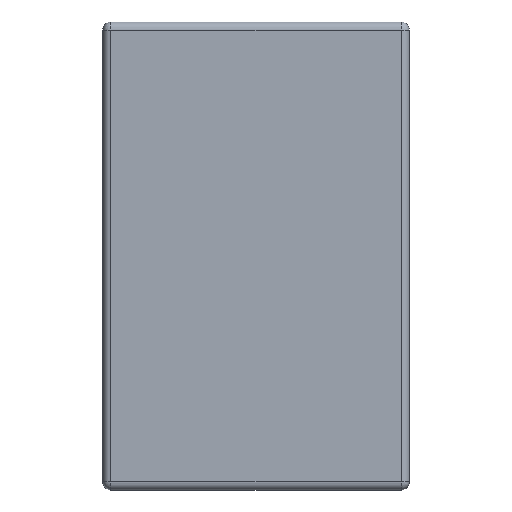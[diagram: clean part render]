
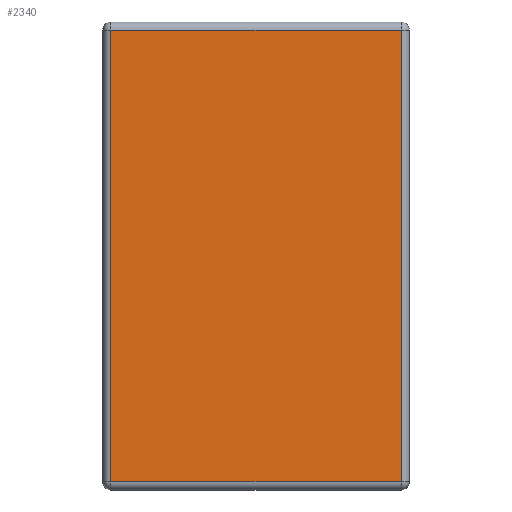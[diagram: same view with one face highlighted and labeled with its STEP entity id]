
A CAD part, front view. The second image highlights one B-rep face of the part: STEP entity #2340.
In plain terms, the highlighted planar face has unit normal (0, -1, 0).
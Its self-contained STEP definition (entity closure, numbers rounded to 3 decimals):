
#176=LINE('',#4308,#369);
#178=LINE('',#4318,#371);
#182=LINE('',#4334,#375);
#184=LINE('',#4337,#377);
#369=VECTOR('',#3206,10.);
#371=VECTOR('',#3218,10.);
#375=VECTOR('',#3236,10.);
#377=VECTOR('',#3240,10.);
#531=PLANE('',#2608);
#713=FACE_OUTER_BOUND('',#899,.T.);
#899=EDGE_LOOP('',(#2052,#2053,#2054,#2055));
#1183=VERTEX_POINT('',#4287);
#1187=VERTEX_POINT('',#4295);
#1191=VERTEX_POINT('',#4310);
#1198=VERTEX_POINT('',#4329);
#1466=EDGE_CURVE('',#1183,#1187,#176,.T.);
#1471=EDGE_CURVE('',#1191,#1183,#178,.T.);
#1479=EDGE_CURVE('',#1187,#1198,#182,.T.);
#1481=EDGE_CURVE('',#1198,#1191,#184,.T.);
#2052=ORIENTED_EDGE('',*,*,#1466,.F.);
#2053=ORIENTED_EDGE('',*,*,#1471,.F.);
#2054=ORIENTED_EDGE('',*,*,#1481,.F.);
#2055=ORIENTED_EDGE('',*,*,#1479,.F.);
#2340=ADVANCED_FACE('',(#713),#531,.T.);
#2608=AXIS2_PLACEMENT_3D('',#4382,#3278,#3279);
#3206=DIRECTION('',(-1.,0.,0.));
#3218=DIRECTION('',(0.,0.,-1.));
#3236=DIRECTION('',(0.,0.,1.));
#3240=DIRECTION('',(1.,0.,0.));
#3278=DIRECTION('center_axis',(0.,-1.,0.));
#3279=DIRECTION('ref_axis',(0.,0.,-1.));
#4287=CARTESIAN_POINT('',(26.5,-8.,-76.5));
#4295=CARTESIAN_POINT('',(-26.5,-8.,-76.5));
#4308=CARTESIAN_POINT('',(-14.,-8.,-76.5));
#4310=CARTESIAN_POINT('',(26.5,-8.,6.));
#4318=CARTESIAN_POINT('',(26.5,-8.,-56.625));
#4329=CARTESIAN_POINT('',(-26.5,-8.,6.));
#4334=CARTESIAN_POINT('',(-26.5,-8.,-13.875));
#4337=CARTESIAN_POINT('',(14.,-8.,6.));
#4382=CARTESIAN_POINT('Origin',(0.,-8.,-35.25));
